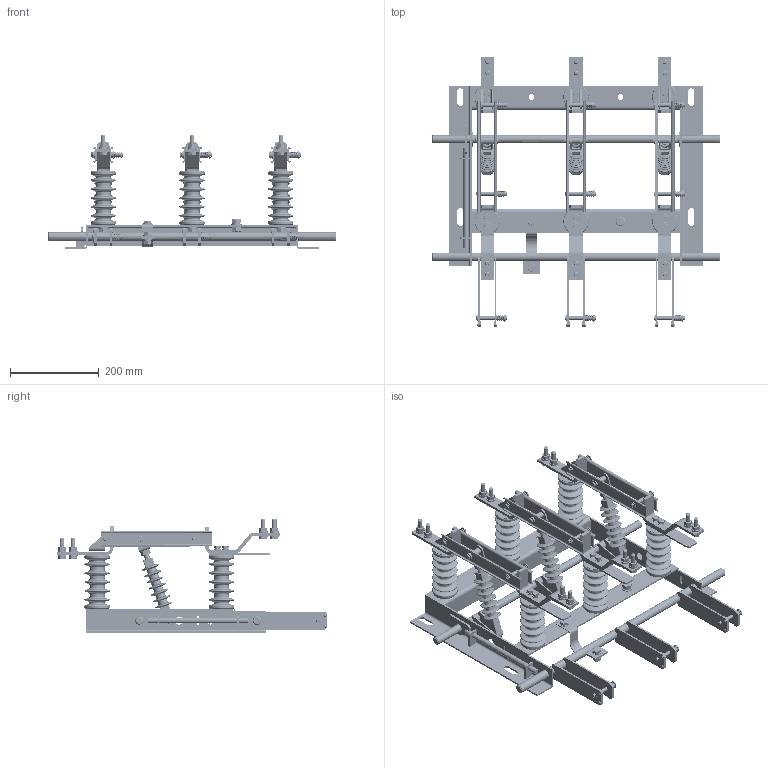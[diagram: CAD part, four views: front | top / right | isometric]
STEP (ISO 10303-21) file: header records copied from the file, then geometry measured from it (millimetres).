
FILE_DESCRIPTION (( 'STEP AP214' ), '1' );
FILE_NAME ('Ðàçúåäèíèòåëü âûñîêîâîëüòíûé ÐÂÇ-10400-I-ÓÕË2.STEP', '2023-02-06T06:45:01', ( '' ), ( '' ), 'SwSTEP 2.0', 'SolidWorks 2018', '' );
FILE_SCHEMA (( 'AUTOMOTIVE_DESIGN' ));
Length unit declared in the file: millimetre
Products named in the file (1): Ðàçúåäèíèòåëü âûñîêîâîëüòíûé ÐÂÇ-10400-I-ÓÕË2
Bounding box: 650 x 609.5 x 257.23 mm (x, y, z)
Volume: 3407310.9 mm3; surface area: 1165107.8 mm2
Topology: 1 solids, 1 shells, 2665 faces, 6618 edges, 4163 vertices
Faces by surface type: plane 1543, cylinder 709, cone 225, torus 167, sphere 12, bspline 9
Full cylindrical faces by diameter (mm): 4 x18, 8 x57, 8.3 x6, 8.4 x15, 8.5 x12, 8.642 x3, 8.677 x5, 8.716 x1, 8.898 x3, 8.909 x5, 9 x12, 9.034 x3, 9.521 x2, 9.652 x5, 9.927 x2, 10 x15, 10.5 x2, 12 x18, 12.1 x2, 12.879 x5, 13 x10, 13.981 x5, 14.399 x5, 16 x21, 16.15 x3, 18 x2, 18.1 x2, 18.302 x4, 19.737 x3, 20 x28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
Entity records: 134939 total; most frequent: CARTESIAN_POINT 46399, DIRECTION 12448, ORIENTED_EDGE 11146, EDGE_CURVE 5573, AXIS2_PLACEMENT_3D 4746, VERTEX_POINT 3877, EDGE_LOOP 3866, FACE_OUTER_BOUND 3184
